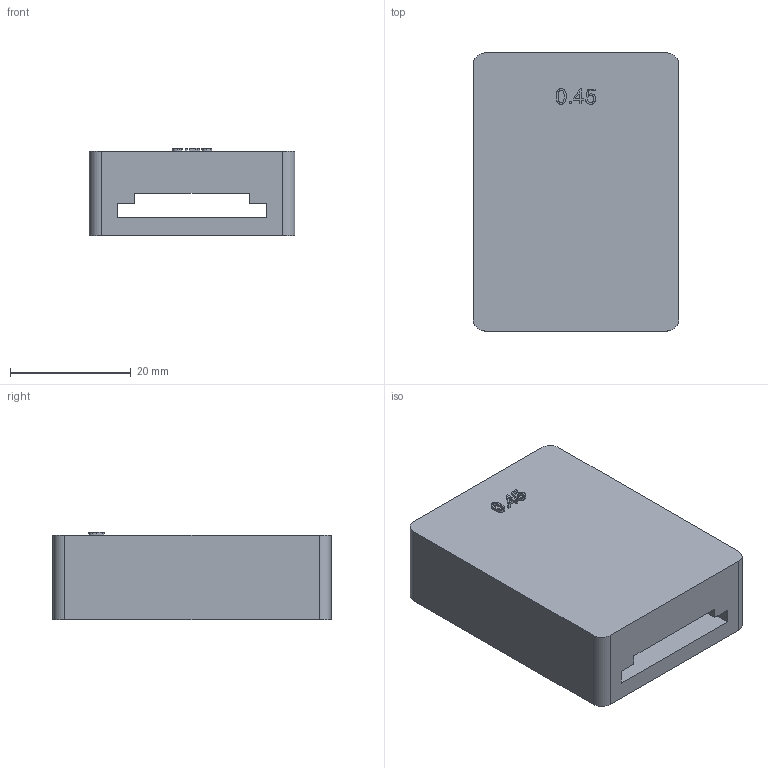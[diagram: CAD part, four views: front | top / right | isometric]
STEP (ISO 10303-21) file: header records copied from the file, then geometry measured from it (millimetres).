
FILE_DESCRIPTION(('Open CASCADE Model'),'2;1');
FILE_NAME('Open CASCADE Shape Model','1970-01-01T00:00:00',('Author'),( 'Open CASCADE'),'Open CASCADE STEP processor 7.8','Open CASCADE 7.8' ,'Unknown');
FILE_SCHEMA(('AUTOMOTIVE_DESIGN { 1 0 10303 214 1 1 1 1 }'));
Length unit declared in the file: millimetre
Products named in the file (2): Open CASCADE STEP translator 7.8 8; S45R sliding receiver
Assembly tree (1 placements, depth 2):
  Open CASCADE STEP translator 7.8 8
    S45R sliding receiver
Bounding box: 34 x 46 x 14.48 mm (x, y, z)
Volume: 17453.5 mm3; surface area: 7801.1 mm2
Topology: 1 solids, 1 shells, 88 faces, 246 edges, 164 vertices
Faces by surface type: plane 47, extrusion 35, cylinder 6
Full cylindrical faces by diameter (mm): 6.8 x2
Entity records: 6681 total; most frequent: CARTESIAN_POINT 2190, DIRECTION 626, ORIENTED_EDGE 492, PCURVE 492, DEFINITIONAL_REPRESENTATION 492, VECTOR 472, LINE 437, B_SPLINE_CURVE_WITH_KNOTS 304
